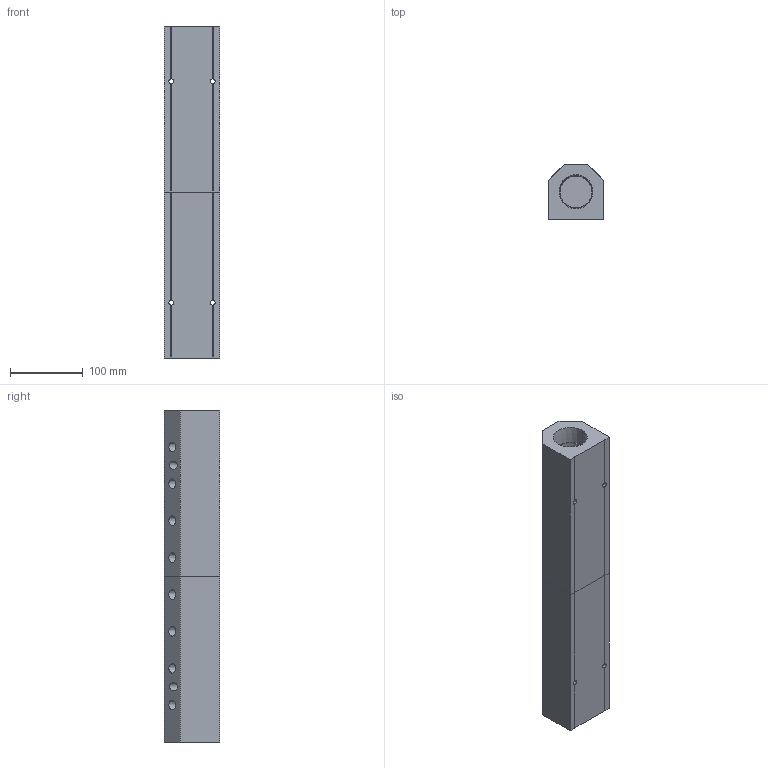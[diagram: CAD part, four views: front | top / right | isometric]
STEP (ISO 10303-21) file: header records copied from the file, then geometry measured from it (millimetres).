
FILE_DESCRIPTION (( 'STEP AP214' ), '1' );
FILE_NAME ('ALM8BCD-N4N24-457RB.step', '2022-02-07T07:52:21', ( '' ), ( '' ), 'SwSTEP 2.0', 'SolidWorks 2020', '' );
FILE_SCHEMA (( 'AUTOMOTIVE_DESIGN' ));
Length unit declared in the file: millimetre
Products named in the file (1): ALM8BCD-N4N24-457RB
Bounding box: 76.2 x 76.2 x 457 mm (x, y, z)
Volume: 1655912.2 mm3; surface area: 227011.3 mm2
Topology: 2 solids, 2 shells, 401 faces, 1060 edges, 704 vertices
Faces by surface type: plane 257, bspline 72, cone 52, cylinder 20
Entity records: 22722 total; most frequent: CARTESIAN_POINT 9390, ORIENTED_EDGE 2120, DIRECTION 1600, EDGE_CURVE 1060, LINE 764, VECTOR 764, VERTEX_POINT 704, EDGE_LOOP 498
